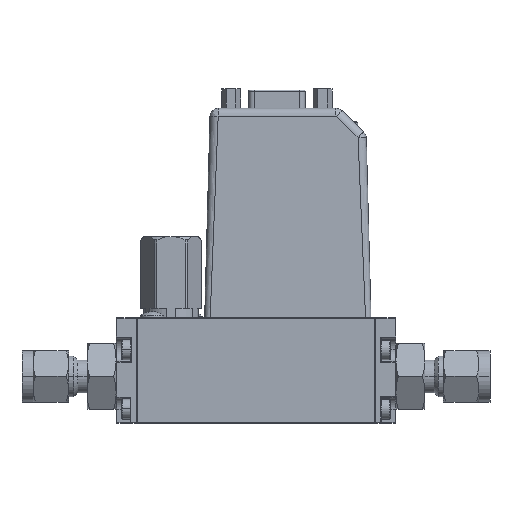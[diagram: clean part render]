
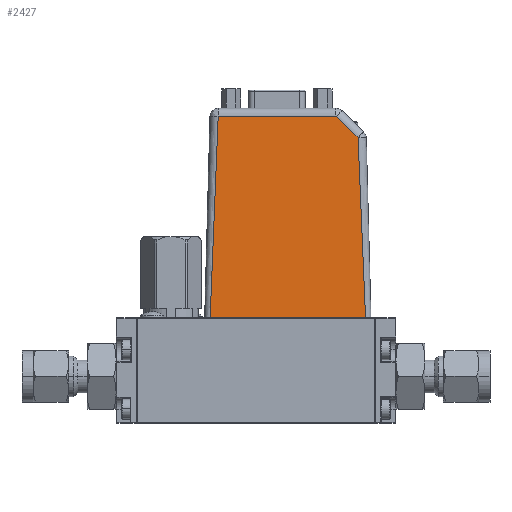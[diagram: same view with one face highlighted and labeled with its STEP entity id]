
A CAD part, top view. The second image highlights one B-rep face of the part: STEP entity #2427.
In plain terms, the highlighted planar face has unit normal (0, 0.026, 1).
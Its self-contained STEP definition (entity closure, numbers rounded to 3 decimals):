
#178 = VERTEX_POINT ( 'NONE', #14228 ) ;
#518 = CARTESIAN_POINT ( 'NONE',  ( 44.997, 55.058, 10.958 ) ) ;
#582 = DIRECTION ( 'NONE',  ( -1., 0., 0. ) ) ;
#984 = DIRECTION ( 'NONE',  ( -0.716, 0.698, -0.018 ) ) ;
#2313 = ORIENTED_EDGE ( 'NONE', *, *, #21861, .T. ) ;
#2427 = ADVANCED_FACE ( 'NONE', ( #29030 ), #14543, .T. ) ;
#4253 = B_SPLINE_CURVE_WITH_KNOTS ( 'NONE', 3,
 ( #12790, #15609, #4568, #23989 ),
 .UNSPECIFIED., .F., .F.,
 ( 4, 4 ),
 ( 0.4, 0.588 ),
 .UNSPECIFIED. ) ;
#4313 = ORIENTED_EDGE ( 'NONE', *, *, #25514, .T. ) ;
#4568 = CARTESIAN_POINT ( 'NONE',  ( 51.515, 32.813, 11.541 ) ) ;
#6941 = EDGE_CURVE ( 'NONE', #178, #30868, #15554, .T. ) ;
#6991 =( BOUNDED_CURVE ( )  B_SPLINE_CURVE ( 3, ( #25329, #14382, #17184, #518 ),
 .UNSPECIFIED., .F., .T. ) 
 B_SPLINE_CURVE_WITH_KNOTS ( ( 4, 4 ),
 ( 5.511, 6.283 ),
 .UNSPECIFIED. ) 
 CURVE ( )  GEOMETRIC_REPRESENTATION_ITEM ( )  RATIONAL_B_SPLINE_CURVE ( ( 1., 0.951, 0.951, 1. ) ) 
 REPRESENTATION_ITEM ( '' )  );
#7909 = CARTESIAN_POINT ( 'NONE',  ( 51.062, 49.228, 11.111 ) ) ;
#9070 = DIRECTION ( 'NONE',  ( 0., 0.026, 1. ) ) ;
#12414 = ORIENTED_EDGE ( 'NONE', *, *, #6941, .T. ) ;
#12790 = CARTESIAN_POINT ( 'NONE',  ( 53.101, 0., 12.4 ) ) ;
#14228 = CARTESIAN_POINT ( 'NONE',  ( 12.872, 55.058, 10.958 ) ) ;
#14382 = CARTESIAN_POINT ( 'NONE',  ( 45.099, 55.038, 10.959 ) ) ;
#14543 = PLANE ( 'NONE',  #24944 ) ;
#15554 = B_SPLINE_CURVE_WITH_KNOTS ( 'NONE', 3,
 ( #29384, #32057, #34979, #18365 ),
 .UNSPECIFIED., .F., .F.,
 ( 4, 4 ),
 ( 0.407, 0.6 ),
 .UNSPECIFIED. ) ;
#15609 = CARTESIAN_POINT ( 'NONE',  ( 52.669, 16.416, 11.97 ) ) ;
#15752 = CARTESIAN_POINT ( 'NONE',  ( 53.101, 0., 12.4 ) ) ;
#16003 = CARTESIAN_POINT ( 'NONE',  ( 10.684, 0., 12.4 ) ) ;
#17184 = CARTESIAN_POINT ( 'NONE',  ( 45.05, 55.058, 10.958 ) ) ;
#17261 = CARTESIAN_POINT ( 'NONE',  ( 54.6, 55.058, 10.958 ) ) ;
#17316 = EDGE_CURVE ( 'NONE', #22279, #23516, #6991, .T. ) ;
#18365 = CARTESIAN_POINT ( 'NONE',  ( 10.684, 0., 12.4 ) ) ;
#19129 = ORIENTED_EDGE ( 'NONE', *, *, #17316, .T. ) ;
#20419 = CARTESIAN_POINT ( 'NONE',  ( 54.6, 0., 12.4 ) ) ;
#20529 = DIRECTION ( 'NONE',  ( -1., 0., 0. ) ) ;
#21333 = VECTOR ( 'NONE', #984, 1000. ) ;
#21861 = EDGE_CURVE ( 'NONE', #29136, #22279, #31303, .T. ) ;
#22128 = EDGE_CURVE ( 'NONE', #30831, #29136, #4253, .T. ) ;
#22279 = VERTEX_POINT ( 'NONE', #35771 ) ;
#23516 = VERTEX_POINT ( 'NONE', #25471 ) ;
#23989 = CARTESIAN_POINT ( 'NONE',  ( 51.062, 49.228, 11.111 ) ) ;
#24944 = AXIS2_PLACEMENT_3D ( 'NONE', #28389, #9070, #28503 ) ;
#25329 = CARTESIAN_POINT ( 'NONE',  ( 45.137, 55.001, 10.96 ) ) ;
#25471 = CARTESIAN_POINT ( 'NONE',  ( 44.997, 55.058, 10.958 ) ) ;
#25514 = EDGE_CURVE ( 'NONE', #23516, #178, #35461, .T. ) ;
#26182 = ORIENTED_EDGE ( 'NONE', *, *, #22128, .T. ) ;
#28389 = CARTESIAN_POINT ( 'NONE',  ( 54.6, 0., 12.4 ) ) ;
#28503 = DIRECTION ( 'NONE',  ( 0., 1., -0.026 ) ) ;
#29030 = FACE_OUTER_BOUND ( 'NONE', #33320, .T. ) ;
#29078 = LINE ( 'NONE', #20419, #35618 ) ;
#29136 = VERTEX_POINT ( 'NONE', #7909 ) ;
#29289 = ORIENTED_EDGE ( 'NONE', *, *, #31857, .F. ) ;
#29384 = CARTESIAN_POINT ( 'NONE',  ( 12.872, 55.058, 10.958 ) ) ;
#30831 = VERTEX_POINT ( 'NONE', #15752 ) ;
#30868 = VERTEX_POINT ( 'NONE', #16003 ) ;
#31303 = LINE ( 'NONE', #34290, #21333 ) ;
#31857 = EDGE_CURVE ( 'NONE', #30831, #30868, #29078, .T. ) ;
#32057 = CARTESIAN_POINT ( 'NONE',  ( 12.341, 36.7, 11.439 ) ) ;
#33320 = EDGE_LOOP ( 'NONE', ( #26182, #2313, #19129, #4313, #12414, #29289 ) ) ;
#34290 = CARTESIAN_POINT ( 'NONE',  ( 77.491, 23.479, 11.785 ) ) ;
#34580 = VECTOR ( 'NONE', #582, 1000. ) ;
#34979 = CARTESIAN_POINT ( 'NONE',  ( 11.165, 18.359, 11.919 ) ) ;
#35461 = LINE ( 'NONE', #17261, #34580 ) ;
#35618 = VECTOR ( 'NONE', #20529, 1000. ) ;
#35771 = CARTESIAN_POINT ( 'NONE',  ( 45.137, 55.001, 10.96 ) ) ;
